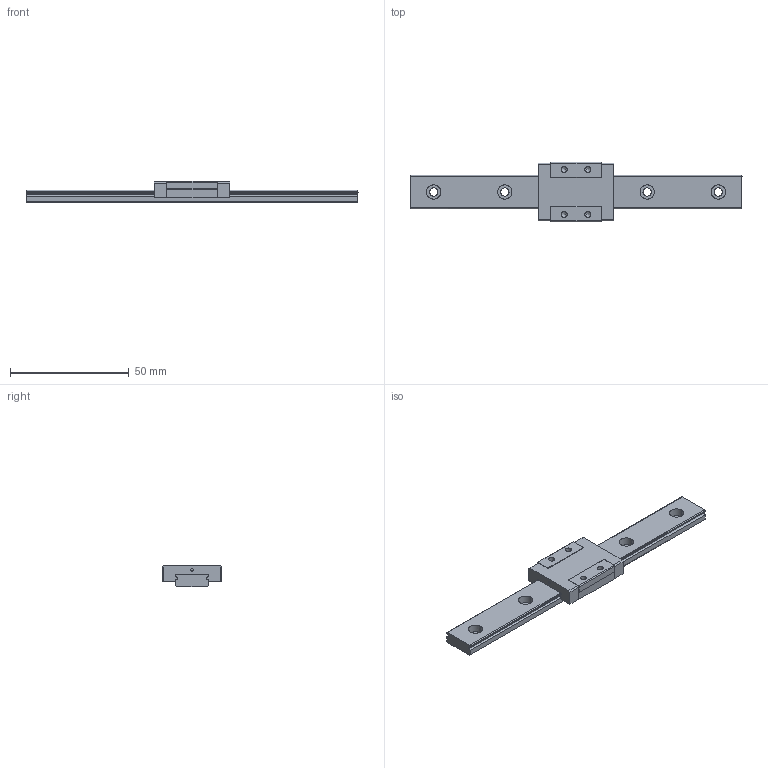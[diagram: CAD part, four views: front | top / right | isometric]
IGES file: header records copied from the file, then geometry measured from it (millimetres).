
Global section: file name: No Iges File Name specified; native system: AutoDesk Inventor R11.0; preprocessor: AutoDesk Inventor Iges Exporter R11.0; author: No Author specified; organization: No Organization specified; date: 20150221.131530; units: millimetre
Bounding box: 140 x 25 x 9 mm (x, y, z)
Surface area: 8748.5 mm2 (no closed solid volume)
Topology: 0 solids, 0 shells, 113 faces, 736 edges, 728 vertices
Faces by surface type: bspline 113
